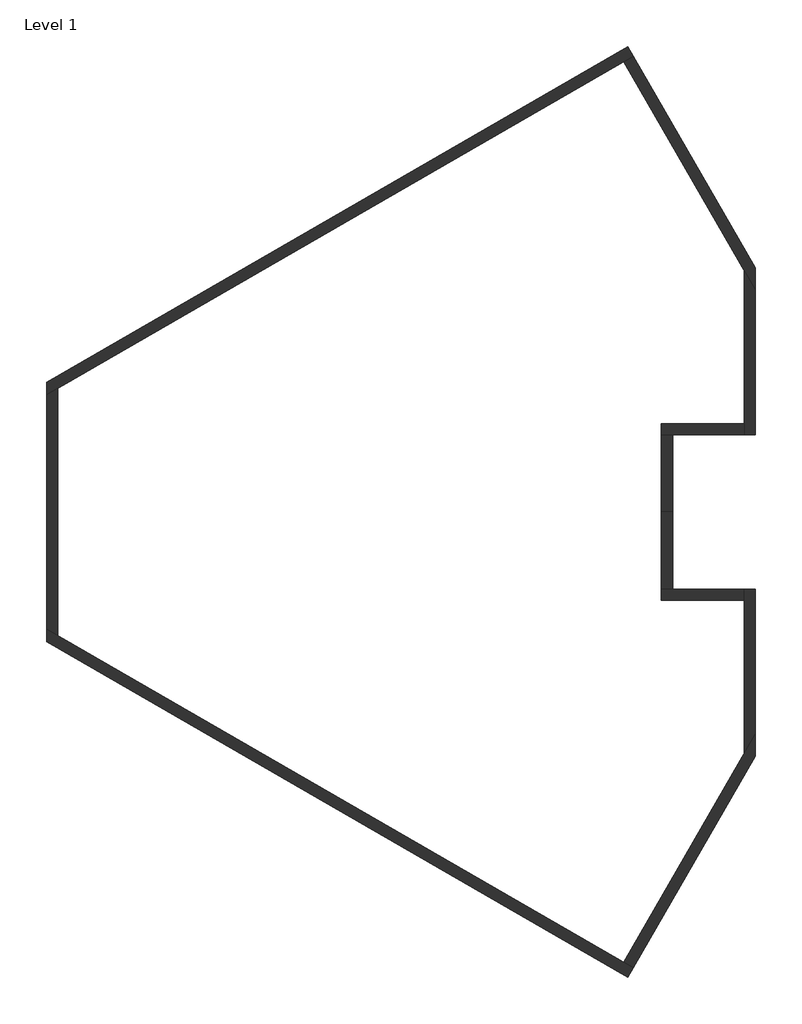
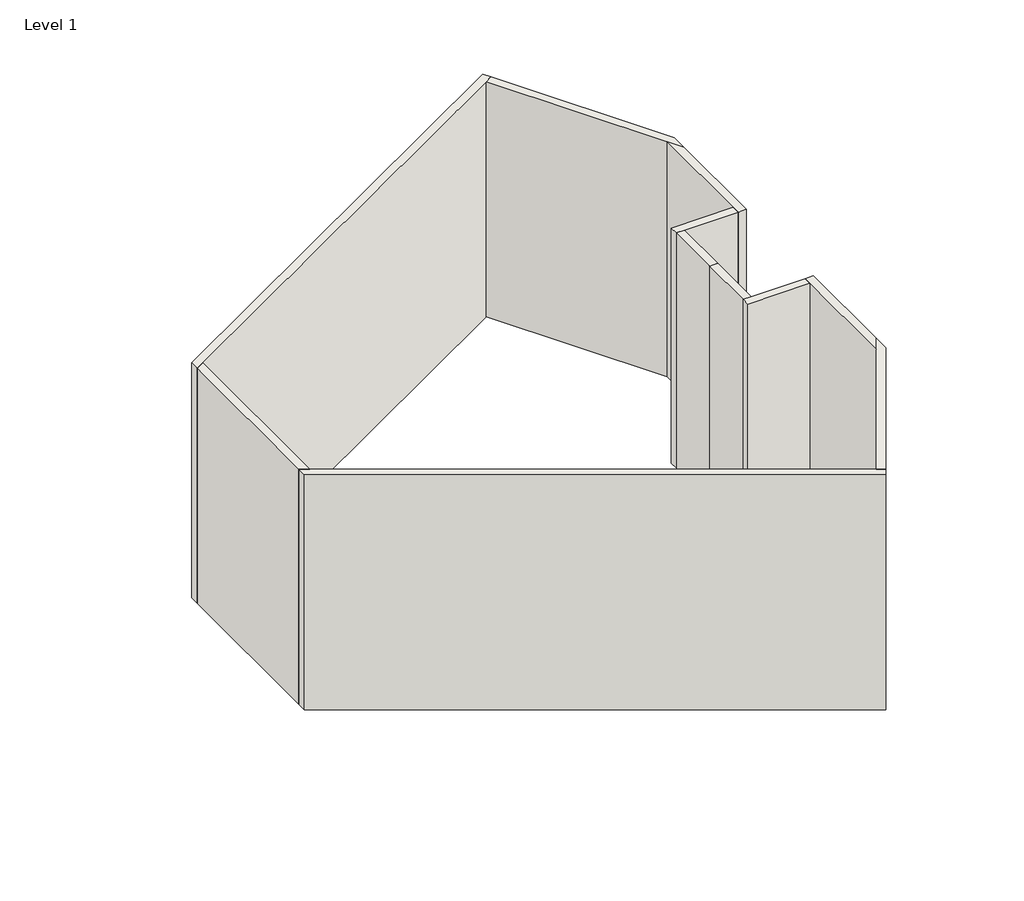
# One storey: 11 walls.
"""IFC4 building model written with IfcOpenShell, lengths in millimetres."""

from ifc_helpers import new_model, si_unit, origin, origin_with_axes, place, context, project, spatial, polyline, outline, extrude, faceted_brep, element, save

model = new_model("IFC4")

# Units and contexts
model_context = context("Model", 3, world=origin())
ifc_project = project(units=[si_unit("LENGTHUNIT", "METRE", prefix="MILLI")], contexts=[model_context])

# Site, building, storey
site = spatial("IfcSite", under=ifc_project)
building = spatial("IfcBuilding", under=site)
storey = spatial("IfcBuildingStorey", under=building, Name="Level 1", Elevation=0.0)

# Walls
placement = place(None, origin())
element("IfcWall", 1, ObjectType="Generic - 8\"", at=placement, inside=storey, context=model_context, shape_type="Brep", body=[
    faceted_brep([(-7404.4251773, 4541.9550956, 0.0), (-7201.2251773, 4659.2726703, 0.0), (3218.5683646, 10675.1432766, 0.0), (3394.5447266, 10776.7432766, 0.0), (3394.5447266, 10776.7432766, 6096.0), (3218.5683646, 10675.1432766, 6096.0), (-7201.2251773, 4659.2726703, 6096.0), (-7404.4251773, 4541.9550956, 6096.0), (-7404.4251773, 4776.590245, 0.0), (-7404.4251773, 4776.590245, 6096.0), (3292.9447266, 10952.7196387, 6096.0), (3292.9447266, 10952.7196387, 0.0)], [[[0, 1, 2, 3, 4, 5, 6, 7]], [[8, 9, 10, 11]], [[3, 2, 1, 0, 8, 11]], [[7, 6, 5, 4, 10, 9]], [[4, 3, 11, 10]], [[0, 7, 9, 8]]]),
])
element("IfcWall", 2, ObjectType="Generic - 8\"", at=placement, inside=storey, context=model_context, shape_type="Brep", body=[
    faceted_brep([(3218.5683646, 10675.1432766, 0.0), (5440.1565456, 6827.2396736, 0.0), (5643.3565456, 6475.2869495, 0.0), (5643.3565456, 6475.2869495, 6096.0), (5440.1565456, 6827.2396736, 6096.0), (3218.5683646, 10675.1432766, 6096.0), (3394.5447266, 10776.7432766, 0.0), (3394.5447266, 10776.7432766, 6096.0), (5643.3565456, 6881.6869495, 6096.0), (5643.3565456, 6881.6869495, 0.0)], [[[0, 1, 2, 3, 4, 5]], [[6, 7, 8, 9]], [[2, 1, 0, 6, 9]], [[5, 4, 3, 8, 7]], [[3, 2, 9, 8]], [[0, 5, 7, 6]]]),
])
element("IfcWall", 3, ObjectType="Generic - 8\"", at=placement, inside=storey, context=model_context, shape_type="Brep", body=[
    faceted_brep([(5440.1565456, 6827.2396736, 0.0), (5440.1565456, 4009.6633116, 0.0), (5440.1565456, 3806.4633116, 0.0), (5440.1565456, 3806.4633116, 6096.0), (5440.1565456, 4009.6633116, 6096.0), (5440.1565456, 6827.2396736, 6096.0), (5643.3565456, 6475.2869495, 0.0), (5643.3565456, 6475.2869495, 6096.0), (5643.3565456, 3806.4633116, 6096.0), (5643.3565456, 3806.4633116, 0.0)], [[[0, 1, 2, 3, 4, 5]], [[6, 7, 8, 9]], [[2, 1, 0, 6, 9]], [[5, 4, 3, 8, 7]], [[3, 2, 9, 8]], [[0, 5, 7, 6]]]),
])
element("IfcWall", 4, ObjectType="Generic - 8\"", at=placement, inside=storey, context=model_context, shape_type="Brep", body=[
    faceted_brep([(5440.1565456, 4009.6633116, 0.0), (3916.1565456, 4009.6633116, 0.0), (3916.1565456, 4009.6633116, 6096.0), (5440.1565456, 4009.6633116, 6096.0), (5440.1565456, 3806.4633116, 0.0), (5440.1565456, 3806.4633116, 6096.0), (4119.3565456, 3806.4633116, 6096.0), (3916.1565456, 3806.4633116, 6096.0), (3916.1565456, 3806.4633116, 0.0), (4119.3565456, 3806.4633116, 0.0)], [[[0, 1, 2, 3]], [[4, 5, 6, 7, 8, 9]], [[1, 0, 4, 9, 8]], [[3, 2, 7, 6, 5]], [[2, 1, 8, 7]], [[0, 3, 5, 4]]]),
])
element("IfcWall", 5, ObjectType="Generic - 8\"", at=placement, inside=storey, context=model_context, shape_type="SweptSolid", body=[
    extrude(outline(polyline([(3916.1565456, 2384.0633116), (3916.1565456, 3806.4633116), (4119.3565456, 3806.4633116), (4119.3565456, 2384.0633116), (3916.1565456, 2384.0633116)])), origin_with_axes(), (0.0, 0.0, 1.0), 6096.0),
])
element("IfcWall", 6, ObjectType="Generic - 8\"", at=placement, inside=storey, context=model_context, shape_type="Brep", body=[
    faceted_brep([(-7404.4251773, -8.4636219, 0.0), (3292.9447266, -6184.5930156, 0.0), (3292.9447266, -6184.5930156, 6096.0), (-7404.4251773, -8.4636219, 6096.0), (-7404.4251773, 226.1715275, 0.0), (-7404.4251773, 226.1715275, 6096.0), (-7201.2251773, 108.8539528, 6096.0), (3218.5683646, -5907.0166535, 6096.0), (3394.5447266, -6008.6166535, 6096.0), (3394.5447266, -6008.6166535, 0.0), (3218.5683646, -5907.0166535, 0.0), (-7201.2251773, 108.8539528, 0.0)], [[[0, 1, 2, 3]], [[4, 5, 6, 7, 8, 9, 10, 11]], [[1, 0, 4, 11, 10, 9]], [[3, 2, 8, 7, 6, 5]], [[2, 1, 9, 8]], [[0, 3, 5, 4]]]),
])
element("IfcWall", 7, ObjectType="Generic - 8\"", at=placement, inside=storey, context=model_context, shape_type="Brep", body=[
    faceted_brep([(3394.5447266, -6008.6166535, 0.0), (5643.3565456, -2113.5603264, 0.0), (5643.3565456, -2113.5603264, 6096.0), (3394.5447266, -6008.6166535, 6096.0), (3218.5683646, -5907.0166535, 0.0), (3218.5683646, -5907.0166535, 6096.0), (5440.1565456, -2059.1130505, 6096.0), (5643.3565456, -1707.1603264, 6096.0), (5643.3565456, -1707.1603264, 0.0), (5440.1565456, -2059.1130505, 0.0)], [[[0, 1, 2, 3]], [[4, 5, 6, 7, 8, 9]], [[1, 0, 4, 9, 8]], [[3, 2, 7, 6, 5]], [[2, 1, 8, 7]], [[0, 3, 5, 4]]]),
])
element("IfcWall", 8, ObjectType="Generic - 8\"", at=placement, inside=storey, context=model_context, shape_type="Brep", body=[
    faceted_brep([(5643.3565456, -1707.1603264, 0.0), (5643.3565456, 961.6633116, 0.0), (5643.3565456, 961.6633116, 6096.0), (5643.3565456, -1707.1603264, 6096.0), (5440.1565456, -2059.1130505, 0.0), (5440.1565456, -2059.1130505, 6096.0), (5440.1565456, 758.4633116, 6096.0), (5440.1565456, 961.6633116, 6096.0), (5440.1565456, 961.6633116, 0.0), (5440.1565456, 758.4633116, 0.0)], [[[0, 1, 2, 3]], [[4, 5, 6, 7, 8, 9]], [[1, 0, 4, 9, 8]], [[3, 2, 7, 6, 5]], [[2, 1, 8, 7]], [[0, 3, 5, 4]]]),
])
element("IfcWall", 9, ObjectType="Generic - 8\"", at=placement, inside=storey, context=model_context, shape_type="Brep", body=[
    faceted_brep([(5440.1565456, 961.6633116, 0.0), (4119.3565456, 961.6633116, 0.0), (3916.1565456, 961.6633116, 0.0), (3916.1565456, 961.6633116, 6096.0), (4119.3565456, 961.6633116, 6096.0), (5440.1565456, 961.6633116, 6096.0), (5440.1565456, 758.4633116, 0.0), (5440.1565456, 758.4633116, 6096.0), (3916.1565456, 758.4633116, 6096.0), (3916.1565456, 758.4633116, 0.0)], [[[0, 1, 2, 3, 4, 5]], [[6, 7, 8, 9]], [[2, 1, 0, 6, 9]], [[5, 4, 3, 8, 7]], [[3, 2, 9, 8]], [[0, 5, 7, 6]]]),
])
element("IfcWall", 10, ObjectType="Generic - 8\"", at=placement, inside=storey, context=model_context, shape_type="SweptSolid", body=[
    extrude(outline(polyline([(4119.3565456, 2384.0633116), (4119.3565456, 961.6633116), (3916.1565456, 961.6633116), (3916.1565456, 2384.0633116), (4119.3565456, 2384.0633116)])), origin_with_axes(), (0.0, 0.0, 1.0), 6096.0),
])
element("IfcWall", 11, ObjectType="Generic - 8\"", at=placement, inside=storey, context=model_context, shape_type="SweptSolid", body=[
    extrude(outline(polyline([(-7404.4251773, 226.1715275), (-7404.4251773, 4541.9550956), (-7201.2251773, 4659.2726703), (-7201.2251773, 108.8539528), (-7404.4251773, 226.1715275)])), origin_with_axes(), (0.0, 0.0, 1.0), 6096.0),
])

save(model, "model.ifc")
